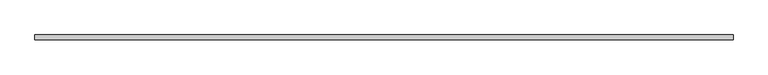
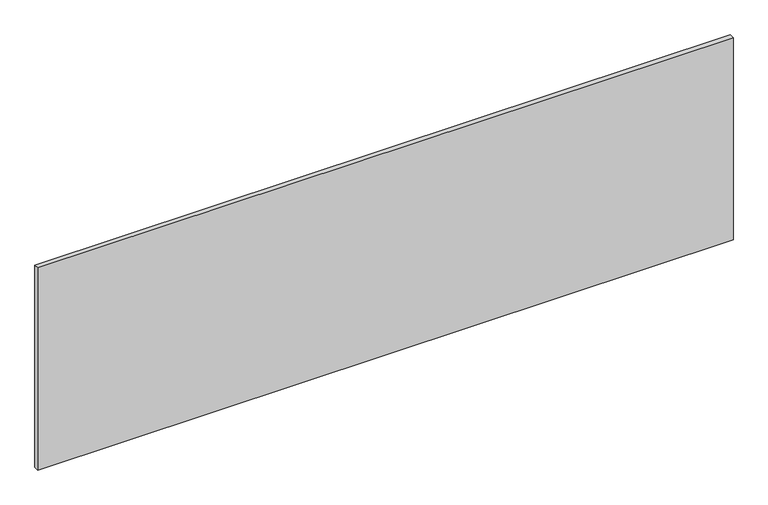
"""IFC4 building model written with IfcOpenShell, lengths in millimetres: furniture geometry, ajuste mueble - esquinas2 : ajuste mueble - esquinas."""

from ifc_helpers import new_model, si_unit, frame, origin, place, context, project, spatial, polyline, outline, extrude, source, transform, mapped, element, save


def furniture_9d35b11e(model_context):
    return source(origin(), model_context, "Body", "SweptSolid", [
        extrude(outline(polyline([(34398.8589874, 31687.6393844), (36742.5589874, 31687.6393844), (36742.5589874, 31671.3005493), (34398.8589874, 31671.3005493), (34398.8589874, 31687.6393844)])), frame((0.0, 0.0, 150.0), z_axis=(0.0, 0.0, 1.0), x_axis=(1.0, 0.0, 0.0)), (0.0, 0.0, 1.0), 720.0),
    ])


if __name__ == "__main__":
    model = new_model("IFC4")
    model_context = context("Model", 3, world=origin())
    ifc_project = project(units=[si_unit("LENGTHUNIT", "METRE", prefix="MILLI")], contexts=[model_context])
    site = spatial("IfcSite", under=ifc_project)
    building = spatial("IfcBuilding", under=site)
    placement = place(None, origin())
    furniture_shape = furniture_9d35b11e(model_context)
    element("IfcFurniture", 1, ObjectType="ajuste mueble - esquinas2 : ajuste mueble - esquinas", at=placement, inside=building, context=model_context, shape_type="MappedRepresentation", body=[
        mapped(furniture_shape, transform((0.0, 0.0, 0.0), x_axis=(1.0, 0.0, 0.0), y_axis=(0.0, 1.0, 0.0), z_axis=(0.0, 0.0, 1.0))),
    ])
    save(model, "model.ifc")
